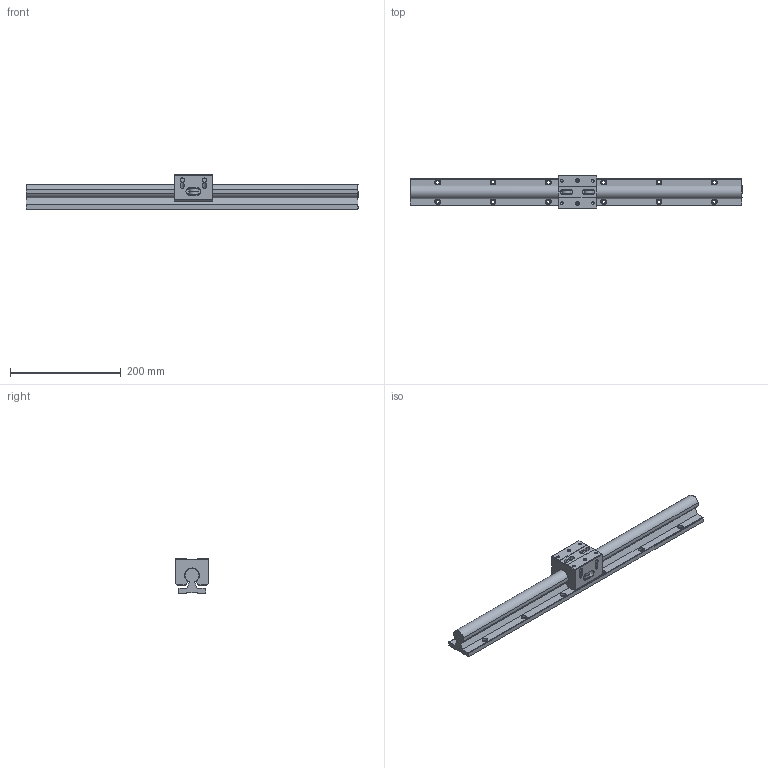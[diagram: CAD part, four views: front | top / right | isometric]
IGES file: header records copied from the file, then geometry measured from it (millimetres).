
Global section: file name: No Iges File Name specified; native system: AutoDesk Inventor R10; preprocessor: AutoDesk Inventor Iges Exporter R10; author: No Author specified; organization: No Organization specified; date: 20101222.155243; units: millimetre
Bounding box: 600 x 60 x 62 mm (x, y, z)
Surface area: 154587.5 mm2 (no closed solid volume)
Topology: 0 solids, 0 shells, 442 faces, 3248 edges, 3224 vertices
Faces by surface type: bspline 442
